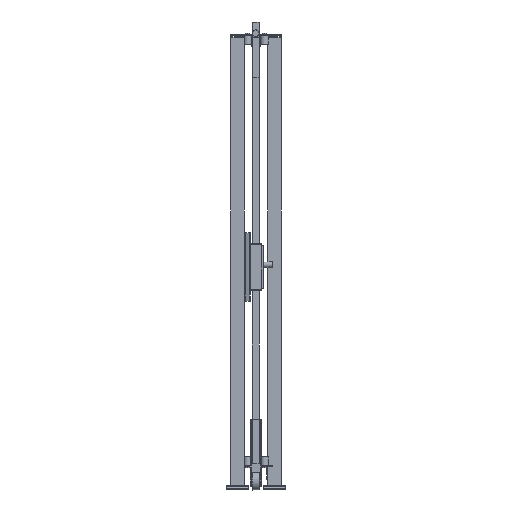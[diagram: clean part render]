
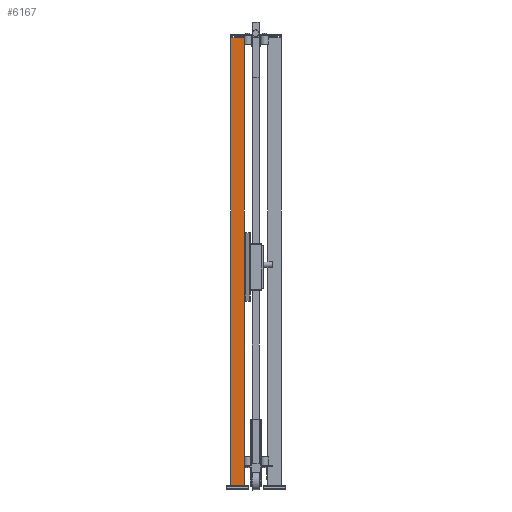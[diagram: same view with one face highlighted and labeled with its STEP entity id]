
A CAD part, left-side view. The second image highlights one B-rep face of the part: STEP entity #6167.
In plain terms, the highlighted planar face has unit normal (-1, 0, 0) as drawn and (0, 1, 0) by its records, which use the part's own axes.
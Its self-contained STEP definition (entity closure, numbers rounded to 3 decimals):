
#593=FACE_OUTER_BOUND('',#1089,.T.);
#1089=EDGE_LOOP('',(#3845,#3846,#3847,#3848));
#1653=VERTEX_POINT('',#13199);
#1654=VERTEX_POINT('',#13201);
#1656=VERTEX_POINT('',#13207);
#1659=VERTEX_POINT('',#13212);
#2483=EDGE_CURVE('',#1653,#1654,#7254,.T.);
#2489=EDGE_CURVE('',#1659,#1656,#7260,.T.);
#2492=EDGE_CURVE('',#1654,#1659,#7263,.T.);
#2493=EDGE_CURVE('',#1653,#1656,#7264,.T.);
#3845=ORIENTED_EDGE('',*,*,#2493,.T.);
#3846=ORIENTED_EDGE('',*,*,#2489,.F.);
#3847=ORIENTED_EDGE('',*,*,#2492,.F.);
#3848=ORIENTED_EDGE('',*,*,#2483,.F.);
#5741=PLANE('',#9229);
#6167=ADVANCED_FACE('',(#593),#5741,.F.);
#7254=LINE('',#13202,#8333);
#7260=LINE('',#13214,#8339);
#7263=LINE('',#13219,#8342);
#7264=LINE('',#13221,#8343);
#8333=VECTOR('',#10377,1.);
#8339=VECTOR('',#10385,1.);
#8342=VECTOR('',#10392,1.);
#8343=VECTOR('',#10395,1.);
#9229=AXIS2_PLACEMENT_3D('',#13220,#10393,#10394);
#10377=DIRECTION('',(-1.,0.,0.));
#10385=DIRECTION('',(1.,0.,0.));
#10392=DIRECTION('',(0.,0.,-1.));
#10393=DIRECTION('center_axis',(0.,-1.,0.));
#10394=DIRECTION('ref_axis',(0.,0.,-1.));
#10395=DIRECTION('',(0.,0.,-1.));
#13199=CARTESIAN_POINT('',(30.,30.,2020.));
#13201=CARTESIAN_POINT('',(-30.,30.,2020.));
#13202=CARTESIAN_POINT('',(0.,30.,2020.));
#13207=CARTESIAN_POINT('',(30.,30.,20.));
#13212=CARTESIAN_POINT('',(-30.,30.,20.));
#13214=CARTESIAN_POINT('',(0.,30.,20.));
#13219=CARTESIAN_POINT('',(-30.,30.,1020.));
#13220=CARTESIAN_POINT('Origin',(0.,30.,
1020.));
#13221=CARTESIAN_POINT('',(30.,30.,1020.));
